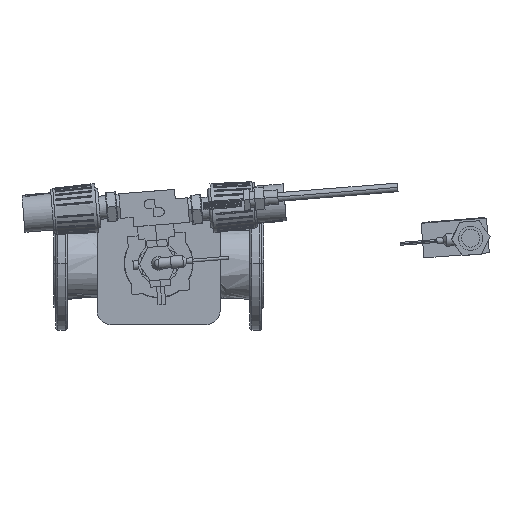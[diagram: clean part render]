
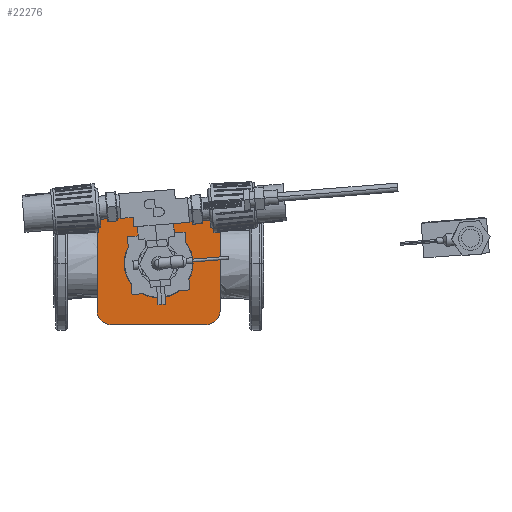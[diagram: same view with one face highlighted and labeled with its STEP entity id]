
A CAD part, front view. The second image highlights one B-rep face of the part: STEP entity #22276.
In plain terms, the highlighted planar face has unit normal (0, -1, 0).
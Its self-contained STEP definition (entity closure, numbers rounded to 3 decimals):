
#9625 = CARTESIAN_POINT ( 'NONE',  ( -46.259, 625.146, -85. ) ) ;
#9626 = DIRECTION ( 'NONE',  ( 0., 0., 1. ) ) ;
#9627 = DIRECTION ( 'NONE',  ( 0., 1., 0. ) ) ;
#9628 = CARTESIAN_POINT ( 'NONE',  ( -46.259, 625.146, -65. ) ) ;
#9629 = AXIS2_PLACEMENT_3D ( 'NONE', #9628, #9627, #9626 ) ;
#9630 = CIRCLE ( 'NONE', #9629, 20. ) ;
#9631 = CARTESIAN_POINT ( 'NONE',  ( -66.259, 625.146, -65. ) ) ;
#9656 = LINE ( 'NONE', #9721, #9720 ) ;
#9657 = DIRECTION ( 'NONE',  ( 0., 0., 1. ) ) ;
#9658 = DIRECTION ( 'NONE',  ( 0., 1., 0. ) ) ;
#9659 = CARTESIAN_POINT ( 'NONE',  ( 83.741, 625.146, -65. ) ) ;
#9660 = AXIS2_PLACEMENT_3D ( 'NONE', #9659, #9658, #9657 ) ;
#9661 = PLANE ( 'NONE',  #9660 ) ;
#9662 = FACE_BOUND ( 'NONE', #22262, .T. ) ;
#9663 = FACE_OUTER_BOUND ( 'NONE', #22277, .T. ) ;
#9672 = CARTESIAN_POINT ( 'NONE',  ( 83.741, 625.146, -85. ) ) ;
#9673 = CARTESIAN_POINT ( 'NONE',  ( 103.741, 625.146, -65. ) ) ;
#9674 = DIRECTION ( 'NONE',  ( 0., 0., 1. ) ) ;
#9675 = DIRECTION ( 'NONE',  ( 0., 1., 0. ) ) ;
#9676 = AXIS2_PLACEMENT_3D ( 'NONE', #9683, #9675, #9674 ) ;
#9677 = CIRCLE ( 'NONE', #9676, 20. ) ;
#9683 = CARTESIAN_POINT ( 'NONE',  ( 83.741, 625.146, -65. ) ) ;
#9685 = DIRECTION ( 'NONE',  ( -1., 0., 0. ) ) ;
#9686 = VECTOR ( 'NONE', #9685, 1000. ) ;
#9687 = CARTESIAN_POINT ( 'NONE',  ( -46.259, 625.146, -85. ) ) ;
#9688 = LINE ( 'NONE', #9687, #9686 ) ;
#9707 = CARTESIAN_POINT ( 'NONE',  ( -46.259, 625.146, 85. ) ) ;
#9708 = DIRECTION ( 'NONE',  ( 1., 0., 0. ) ) ;
#9709 = VECTOR ( 'NONE', #9708, 1000. ) ;
#9710 = CARTESIAN_POINT ( 'NONE',  ( -46.259, 625.146, 85. ) ) ;
#9711 = LINE ( 'NONE', #9710, #9709 ) ;
#9712 = CARTESIAN_POINT ( 'NONE',  ( 83.741, 625.146, 85. ) ) ;
#9713 = DIRECTION ( 'NONE',  ( 0., 0., 1. ) ) ;
#9714 = DIRECTION ( 'NONE',  ( 0., 1., 0. ) ) ;
#9715 = CARTESIAN_POINT ( 'NONE',  ( 83.741, 625.146, 65. ) ) ;
#9716 = AXIS2_PLACEMENT_3D ( 'NONE', #9715, #9714, #9713 ) ;
#9717 = CIRCLE ( 'NONE', #9716, 20. ) ;
#9718 = CARTESIAN_POINT ( 'NONE',  ( 103.741, 625.146, 65. ) ) ;
#9719 = DIRECTION ( 'NONE',  ( 0., 0., -1. ) ) ;
#9720 = VECTOR ( 'NONE', #9719, 1000. ) ;
#9721 = CARTESIAN_POINT ( 'NONE',  ( 103.741, 625.146, -65. ) ) ;
#9775 = LINE ( 'NONE', #9827, #9826 ) ;
#9776 = CARTESIAN_POINT ( 'NONE',  ( -66.259, 625.146, 65. ) ) ;
#9777 = DIRECTION ( 'NONE',  ( 0., 0., 1. ) ) ;
#9778 = DIRECTION ( 'NONE',  ( 0., 1., 0. ) ) ;
#9779 = CARTESIAN_POINT ( 'NONE',  ( -46.259, 625.146, 65. ) ) ;
#9780 = AXIS2_PLACEMENT_3D ( 'NONE', #9779, #9778, #9777 ) ;
#9781 = CIRCLE ( 'NONE', #9780, 20. ) ;
#9825 = DIRECTION ( 'NONE',  ( 0., 0., 1. ) ) ;
#9826 = VECTOR ( 'NONE', #9825, 1000. ) ;
#9827 = CARTESIAN_POINT ( 'NONE',  ( -66.259, 625.146, -65. ) ) ;
#9832 = CIRCLE ( 'NONE', #9891, 47.65 ) ;
#9888 = DIRECTION ( 'NONE',  ( 0., 0., 1. ) ) ;
#9889 = DIRECTION ( 'NONE',  ( 0., 1., 0. ) ) ;
#9890 = CARTESIAN_POINT ( 'NONE',  ( 18.741, 625.146, 0. ) ) ;
#9891 = AXIS2_PLACEMENT_3D ( 'NONE', #9890, #9889, #9888 ) ;
#9974 = CARTESIAN_POINT ( 'NONE',  ( 18.741, 625.146, -47.65 ) ) ;
#9975 = DIRECTION ( 'NONE',  ( 0., 0., 1. ) ) ;
#9976 = DIRECTION ( 'NONE',  ( 0., 1., 0. ) ) ;
#9977 = CARTESIAN_POINT ( 'NONE',  ( 18.741, 625.146, 0. ) ) ;
#9978 = AXIS2_PLACEMENT_3D ( 'NONE', #9977, #9976, #9975 ) ;
#9979 = CIRCLE ( 'NONE', #9978, 47.65 ) ;
#9980 = CARTESIAN_POINT ( 'NONE',  ( 18.741, 625.146, 47.65 ) ) ;
#22256 = VERTEX_POINT ( 'NONE', #9631 ) ;
#22257 = ORIENTED_EDGE ( 'NONE', *, *, #22258, .F. ) ;
#22258 = EDGE_CURVE ( 'NONE', #22259, #22256, #9630, .T. ) ;
#22259 = VERTEX_POINT ( 'NONE', #9625 ) ;
#22260 = ORIENTED_EDGE ( 'NONE', *, *, #22261, .F. ) ;
#22261 = EDGE_CURVE ( 'NONE', #22270, #22259, #9688, .T. ) ;
#22262 = EDGE_LOOP ( 'NONE', ( #22263, #22264 ) ) ;
#22263 = ORIENTED_EDGE ( 'NONE', *, *, #22433, .T. ) ;
#22264 = ORIENTED_EDGE ( 'NONE', *, *, #22363, .T. ) ;
#22268 = EDGE_CURVE ( 'NONE', #22269, #22270, #9677, .T. ) ;
#22269 = VERTEX_POINT ( 'NONE', #9673 ) ;
#22270 = VERTEX_POINT ( 'NONE', #9672 ) ;
#22276 = ADVANCED_FACE ( 'NONE', ( #9663, #9662 ), #9661, .F. ) ;
#22277 = EDGE_LOOP ( 'NONE', ( #22278, #22279, #22282, #22285, #22325, #22328, #22257, #22260 ) ) ;
#22278 = ORIENTED_EDGE ( 'NONE', *, *, #22268, .F. ) ;
#22279 = ORIENTED_EDGE ( 'NONE', *, *, #22280, .F. ) ;
#22280 = EDGE_CURVE ( 'NONE', #22281, #22269, #9656, .T. ) ;
#22281 = VERTEX_POINT ( 'NONE', #9718 ) ;
#22282 = ORIENTED_EDGE ( 'NONE', *, *, #22283, .F. ) ;
#22283 = EDGE_CURVE ( 'NONE', #22284, #22281, #9717, .T. ) ;
#22284 = VERTEX_POINT ( 'NONE', #9712 ) ;
#22285 = ORIENTED_EDGE ( 'NONE', *, *, #22286, .F. ) ;
#22286 = EDGE_CURVE ( 'NONE', #22287, #22284, #9711, .T. ) ;
#22287 = VERTEX_POINT ( 'NONE', #9707 ) ;
#22325 = ORIENTED_EDGE ( 'NONE', *, *, #22326, .F. ) ;
#22326 = EDGE_CURVE ( 'NONE', #22327, #22287, #9781, .T. ) ;
#22327 = VERTEX_POINT ( 'NONE', #9776 ) ;
#22328 = ORIENTED_EDGE ( 'NONE', *, *, #22329, .F. ) ;
#22329 = EDGE_CURVE ( 'NONE', #22256, #22327, #9775, .T. ) ;
#22363 = EDGE_CURVE ( 'NONE', #22431, #22434, #9832, .T. ) ;
#22431 = VERTEX_POINT ( 'NONE', #9980 ) ;
#22433 = EDGE_CURVE ( 'NONE', #22434, #22431, #9979, .T. ) ;
#22434 = VERTEX_POINT ( 'NONE', #9974 ) ;
